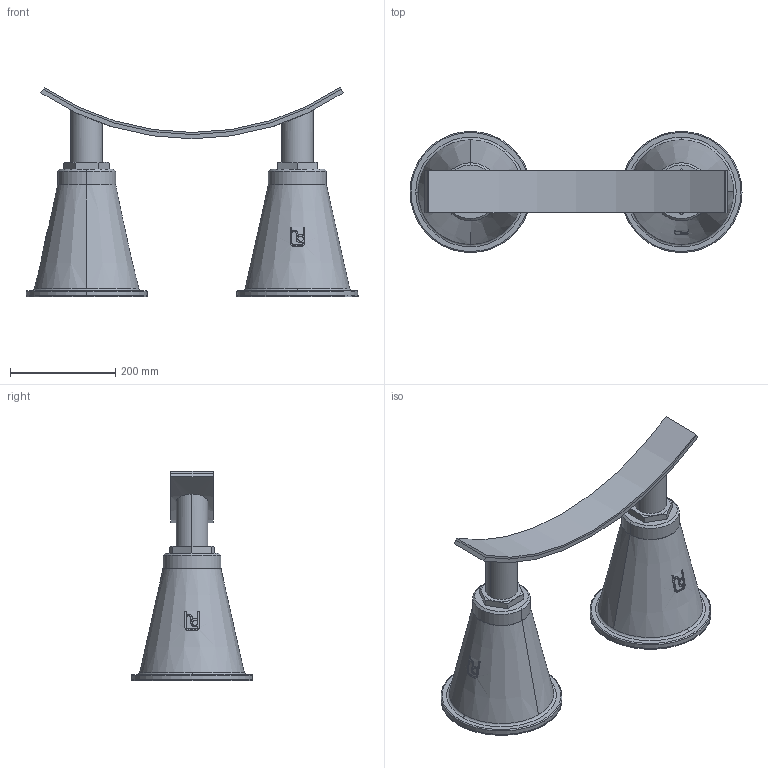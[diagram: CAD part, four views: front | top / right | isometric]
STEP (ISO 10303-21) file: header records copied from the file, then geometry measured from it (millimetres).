
FILE_DESCRIPTION(('STEP AP214'),'1');
FILE_NAME('RSRFA-DUO_DN1000.stp','2018-06-25T11:14:16',(' '),(' '),'Spatial InterOp 3D',' ',' ');
FILE_SCHEMA(('automotive_design'));
Length unit declared in the file: millimetre
Products named in the file (10): 1; 2; 3; 4; 5; 6; 7; 8; 9; 10
Bounding box: 630 x 230 x 398.11 mm (x, y, z)
Volume: 11900694.3 mm3; surface area: 962510 mm2
Topology: 10 solids, 14 shells, 214 faces, 506 edges, 326 vertices
Faces by surface type: plane 84, cylinder 80, cone 42, torus 8
Entity records: 9589 total; most frequent: CARTESIAN_POINT 2752, DIRECTION 1044, ORIENTED_EDGE 1012, EDGE_CURVE 506, AXIS2_PLACEMENT_3D 410, VERTEX_POINT 326, EDGE_LOOP 232, STYLED_ITEM 224
